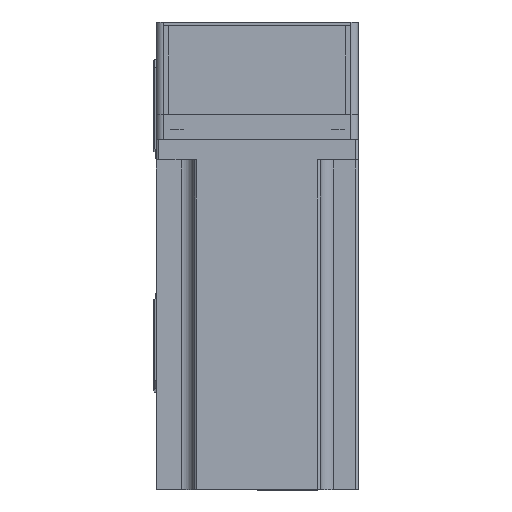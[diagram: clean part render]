
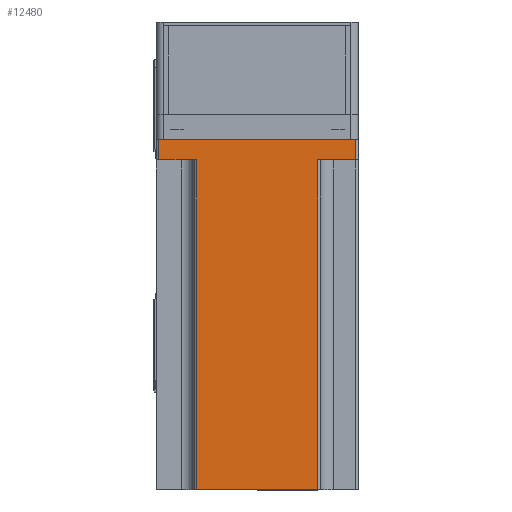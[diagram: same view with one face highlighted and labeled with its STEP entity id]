
A CAD part, top view. The second image highlights one B-rep face of the part: STEP entity #12480.
In plain terms, the highlighted planar face has unit normal (0, 0, 1) as drawn and (0, 1, 0) by its records, which use the part's own axes.
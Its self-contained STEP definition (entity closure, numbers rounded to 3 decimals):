
#213 = ORIENTED_EDGE ( 'NONE', *, *, #14066, .T. ) ;
#1244 = CARTESIAN_POINT ( 'NONE',  ( -24., 40., 138.3 ) ) ;
#1794 = PLANE ( 'NONE',  #36398 ) ;
#1871 = VECTOR ( 'NONE', #35263, 1000. ) ;
#2120 = CARTESIAN_POINT ( 'NONE',  ( 40., 40., 138.3 ) ) ;
#4360 = CARTESIAN_POINT ( 'NONE',  ( -39., 40., 0. ) ) ;
#5064 = ORIENTED_EDGE ( 'NONE', *, *, #32668, .T. ) ;
#5751 = VECTOR ( 'NONE', #16020, 1000. ) ;
#5757 = LINE ( 'NONE', #45024, #43618 ) ;
#5786 = LINE ( 'NONE', #13206, #25293 ) ;
#5802 = DIRECTION ( 'NONE',  ( -1., 0., 0. ) ) ;
#5811 = DIRECTION ( 'NONE',  ( 1., 0., 0. ) ) ;
#6215 = LINE ( 'NONE', #26622, #33205 ) ;
#7438 = EDGE_LOOP ( 'NONE', ( #15951, #42484, #12434, #5064, #8569, #35308, #41538, #213 ) ) ;
#8569 = ORIENTED_EDGE ( 'NONE', *, *, #10815, .F. ) ;
#9976 = EDGE_CURVE ( 'NONE', #45031, #16920, #12837, .T. ) ;
#10815 = EDGE_CURVE ( 'NONE', #45031, #23400, #5786, .T. ) ;
#12434 = ORIENTED_EDGE ( 'NONE', *, *, #30785, .F. ) ;
#12450 = CARTESIAN_POINT ( 'NONE',  ( 39., 40., 0. ) ) ;
#12480 = ADVANCED_FACE ( 'NONE', ( #30612 ), #1794, .F. ) ;
#12837 = LINE ( 'NONE', #14354, #21391 ) ;
#13206 = CARTESIAN_POINT ( 'NONE',  ( 25., 40., 8. ) ) ;
#13346 = CARTESIAN_POINT ( 'NONE',  ( 40., 40., 138.3 ) ) ;
#14034 = DIRECTION ( 'NONE',  ( 0., 0., -1. ) ) ;
#14066 = EDGE_CURVE ( 'NONE', #15680, #36703, #6215, .T. ) ;
#14354 = CARTESIAN_POINT ( 'NONE',  ( 39., 40., 138.3 ) ) ;
#15130 = LINE ( 'NONE', #13346, #1871 ) ;
#15543 = LINE ( 'NONE', #1244, #5751 ) ;
#15680 = VERTEX_POINT ( 'NONE', #4360 ) ;
#15951 = ORIENTED_EDGE ( 'NONE', *, *, #31899, .T. ) ;
#16020 = DIRECTION ( 'NONE',  ( 0., 0., 1. ) ) ;
#16920 = VERTEX_POINT ( 'NONE', #12450 ) ;
#18033 = CARTESIAN_POINT ( 'NONE',  ( -24., 40., 8. ) ) ;
#18302 = LINE ( 'NONE', #35904, #46391 ) ;
#19397 = DIRECTION ( 'NONE',  ( 1., 0., 0. ) ) ;
#19548 = VERTEX_POINT ( 'NONE', #31486 ) ;
#20730 = DIRECTION ( 'NONE',  ( 0., 0., -1. ) ) ;
#21391 = VECTOR ( 'NONE', #14034, 1000. ) ;
#23079 = DIRECTION ( 'NONE',  ( 0., 0., 1. ) ) ;
#23400 = VERTEX_POINT ( 'NONE', #39560 ) ;
#24779 = LINE ( 'NONE', #46407, #34554 ) ;
#25293 = VECTOR ( 'NONE', #5802, 1000. ) ;
#25430 = VERTEX_POINT ( 'NONE', #27516 ) ;
#26622 = CARTESIAN_POINT ( 'NONE',  ( -39., 40., 138.3 ) ) ;
#27516 = CARTESIAN_POINT ( 'NONE',  ( 24., 40., 138.3 ) ) ;
#27791 = DIRECTION ( 'NONE',  ( 0., -1., 0. ) ) ;
#30612 = FACE_OUTER_BOUND ( 'NONE', #7438, .T. ) ;
#30785 = EDGE_CURVE ( 'NONE', #25430, #19548, #15130, .T. ) ;
#31486 = CARTESIAN_POINT ( 'NONE',  ( -24., 40., 138.3 ) ) ;
#31899 = EDGE_CURVE ( 'NONE', #36703, #41256, #5757, .T. ) ;
#32668 = EDGE_CURVE ( 'NONE', #25430, #23400, #24779, .T. ) ;
#33205 = VECTOR ( 'NONE', #23079, 1000. ) ;
#33498 = EDGE_CURVE ( 'NONE', #41256, #19548, #15543, .T. ) ;
#33834 = CARTESIAN_POINT ( 'NONE',  ( 39., 40., 8. ) ) ;
#34004 = CARTESIAN_POINT ( 'NONE',  ( -39., 40., 8. ) ) ;
#34554 = VECTOR ( 'NONE', #20730, 1000. ) ;
#35263 = DIRECTION ( 'NONE',  ( -1., 0., 0. ) ) ;
#35308 = ORIENTED_EDGE ( 'NONE', *, *, #9976, .T. ) ;
#35904 = CARTESIAN_POINT ( 'NONE',  ( 40., 40., 0. ) ) ;
#36398 = AXIS2_PLACEMENT_3D ( 'NONE', #2120, #27791, #5811 ) ;
#36703 = VERTEX_POINT ( 'NONE', #34004 ) ;
#39560 = CARTESIAN_POINT ( 'NONE',  ( 24., 40., 8. ) ) ;
#39604 = DIRECTION ( 'NONE',  ( -1., 0., 0. ) ) ;
#41256 = VERTEX_POINT ( 'NONE', #18033 ) ;
#41538 = ORIENTED_EDGE ( 'NONE', *, *, #44723, .T. ) ;
#42484 = ORIENTED_EDGE ( 'NONE', *, *, #33498, .T. ) ;
#43618 = VECTOR ( 'NONE', #19397, 1000. ) ;
#44723 = EDGE_CURVE ( 'NONE', #16920, #15680, #18302, .T. ) ;
#45024 = CARTESIAN_POINT ( 'NONE',  ( -25., 40., 8. ) ) ;
#45031 = VERTEX_POINT ( 'NONE', #33834 ) ;
#46391 = VECTOR ( 'NONE', #39604, 1000. ) ;
#46407 = CARTESIAN_POINT ( 'NONE',  ( 24., 40., 138.3 ) ) ;
